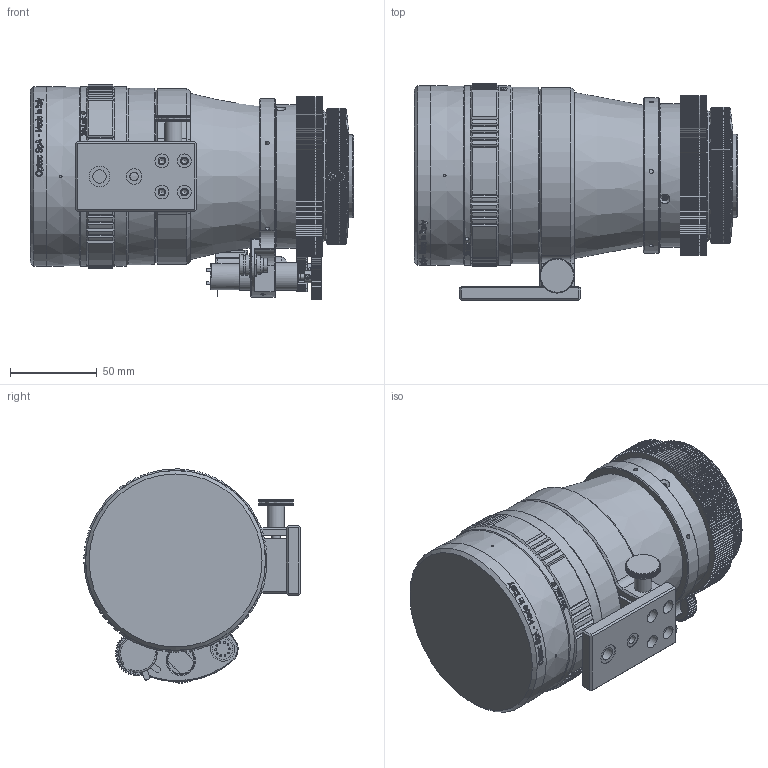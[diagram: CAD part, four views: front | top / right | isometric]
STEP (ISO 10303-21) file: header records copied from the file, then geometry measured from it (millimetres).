
FILE_DESCRIPTION((''),'2;1');
FILE_NAME('C:\Users\dblandino\Desktop\C1116_076_000.stp','2014-04-28T13:49:53',('dblandino'),(''),'Autodesk Inventor 2010','Autodesk Inventor 2010','');
FILE_SCHEMA(('AUTOMOTIVE_DESIGN { 1 0 10303 214 1 1 1 1 }'));
Length unit declared in the file: millimetre
Products named in the file (2): C1116_076_000.iam (Livello di dettaglio sostituto3); C1116_076_000_SUB
Assembly tree (1 placements, depth 2):
  C1116_076_000.iam (Livello di dettaglio sostituto3)
    C1116_076_000_SUB
Bounding box: 186.78 x 124.99 x 123.88 mm (x, y, z)
Volume: 1335483.8 mm3; surface area: 146690.8 mm2
Topology: 1 solids, 47 shells, 4625 faces, 12788 edges, 8444 vertices
Faces by surface type: plane 2118, cylinder 1380, bspline 876, cone 218, torus 32, sphere 1
Full cylindrical faces by diameter (mm): 1 x10, 1.5 x1, 3 x4, 3.2 x1, 3.5 x1, 3.8 x6, 4.978 x1, 5 x1, 6 x1, 6.32 x1, 7 x3, 7.798 x1, 8 x2, 8.23 x1, 8.5 x1, 9.38 x1, 10 x2, 10.25 x1, 10.26 x1, 11 x1, 11.1 x1, 11.5 x1, 11.9 x2, 13 x2, 14 x1, 14.31 x1, 15 x2, 16 x3, 22.2 x1, 48 x1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
Entity records: 318847 total; most frequent: CARTESIAN_POINT 205492, ORIENTED_EDGE 24970, DIRECTION 19805, EDGE_CURVE 12485, VERTEX_POINT 8337, AXIS2_PLACEMENT_3D 7135, VECTOR 5535, LINE 5535
